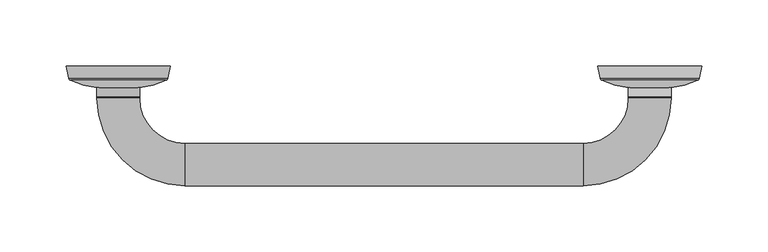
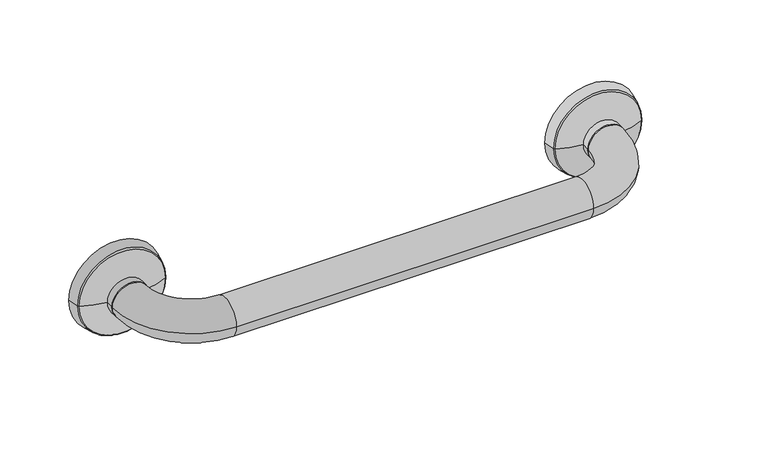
"""IFC4 building model written with IfcOpenShell, lengths in millimetres: proxy geometry, Grab Rail_Metlam_Straight_Horizontal : 432long x 90d x 32h (ML329SS)."""

from ifc_helpers import new_model, si_unit, point, frame, origin, place, context, project, spatial, polyline, circle_curve, ellipse_curve, trimmed, source, transform, mapped, element, save
from ifc_brep_helpers import plane_surface, cylinder_surface, revolved_surface, advanced_brep


def specialty_equipment_db36f565(model_context):
    return source(origin(), model_context, "Body", "AdvancedBrep", [
        advanced_brep(
        [(89.0, -58.0, 784.0), (55.0, -24.0, 784.0), (23.0, -24.0, 784.0), (89.0, -90.0, 784.0), (389.0, -90.0, 784.0), (389.0, -58.0, 784.0), (455.0, -24.0, 784.0), (423.0, -24.0, 784.0), (55.0, -23.0, 784.0), (23.0, -23.0, 784.0), (455.0, -23.0, 784.0), (423.0, -23.0, 784.0), (0.0, 0.0, 784.0), (78.0, 0.0, 784.0), (76.1870729, -9.0646354, 784.0), (1.8129271, -9.0646354, 784.0), (2.8615925, -10.4521085, 784.0), (75.1384075, -10.4521085, 784.0), (55.0, -16.0065539, 784.0), (23.0, -16.0065539, 784.0), (39.0, 0.0, 784.0), (478.0, 0.0, 784.0), (400.0, 0.0, 784.0), (439.0, 0.0, 784.0), (476.1870729, -9.0646354, 784.0), (401.8129271, -9.0646354, 784.0), (455.0, -16.0065539, 784.0), (423.0, -16.0065539, 784.0), (402.8615925, -10.4521085, 784.0), (475.1384075, -10.4521085, 784.0)],
        [
            (0, 1, circle_curve(frame((89.0, -24.0, 784.0), z_axis=(0.0, 0.0, -1.0), x_axis=(-1.0, 0.0, 0.0)), 34.0)),
            (1, 2, circle_curve(frame((39.0, -24.0, 784.0), z_axis=(0.0, -1.0, 0.0), x_axis=(1.0, 0.0, 0.0)), 16.0)),
            (2, 3, circle_curve(frame((89.0, -24.0, 784.0), z_axis=(0.0, 0.0, 1.0), x_axis=(-1.0, 0.0, 0.0)), 66.0)),
            (3, 0, circle_curve(frame((89.0, -74.0, 784.0), z_axis=(-1.0, 1.825290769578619e-12, 0.0), x_axis=(1.825290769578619e-12, 1.0, 0.0)), 16.0)),
            (0, 3, circle_curve(frame((89.0, -74.0, 784.0), z_axis=(-1.0, 3.5350342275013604e-12, 0.0), x_axis=(3.5350342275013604e-12, 1.0, 0.0)), 16.0)),
            (2, 1, circle_curve(frame((39.0, -24.0, 784.0), z_axis=(0.0, -1.0, 0.0), x_axis=(1.0, 0.0, 0.0)), 16.0)),
            (3, 4),
            (4, 5, circle_curve(frame((389.0, -74.0, 784.0), z_axis=(-1.0, 0.0, 0.0), x_axis=(0.0, 1.0, 0.0)), 16.0)),
            (5, 0),
            (5, 4, circle_curve(frame((389.0, -74.0, 784.0), z_axis=(-1.0, 0.0, 0.0), x_axis=(0.0, 1.0, 0.0)), 16.0)),
            (4, 6, circle_curve(frame((389.0, -24.0, 784.0), z_axis=(0.0, 0.0, 1.0), x_axis=(0.0, -1.0, 0.0)), 66.0)),
            (6, 7, circle_curve(frame((439.0, -24.0, 784.0), z_axis=(0.0, -1.0, 0.0), x_axis=(-1.0, 0.0, 0.0)), 16.0)),
            (7, 5, circle_curve(frame((389.0, -24.0, 784.0), z_axis=(0.0, 0.0, -1.0), x_axis=(0.0, -1.0, 0.0)), 34.0)),
            (7, 6, circle_curve(frame((439.0, -24.0, 784.0), z_axis=(0.0, -1.0, 0.0), x_axis=(-1.0, 0.0, 0.0)), 16.0)),
            (1, 8),
            (8, 9, circle_curve(frame((39.0, -23.0, 784.0), z_axis=(0.0, -1.0, 0.0), x_axis=(1.0, 0.0, 0.0)), 16.0)),
            (9, 2),
            (9, 8, circle_curve(frame((39.0, -23.0, 784.0), z_axis=(0.0, -1.0, 0.0), x_axis=(1.0, 0.0, 0.0)), 16.0)),
            (6, 10),
            (10, 11, circle_curve(frame((439.0, -23.0, 784.0), z_axis=(0.0, -1.0, 0.0), x_axis=(-1.0, 0.0, 0.0)), 16.0)),
            (11, 7),
            (11, 10, circle_curve(frame((439.0, -23.0, 784.0), z_axis=(0.0, -1.0, 0.0), x_axis=(-1.0, 0.0, 0.0)), 16.0)),
            (12, 13, circle_curve(frame((39.0, 0.0, 784.0), z_axis=(0.0, -1.0, 0.0), x_axis=(1.0, 0.0, 0.0)), 39.0)),
            (13, 14),
            (14, 15, circle_curve(frame((39.0, -9.0646354, 784.0), z_axis=(0.0, 1.0, 0.0), x_axis=(1.0, 0.0, 0.0)), 37.1870729)),
            (15, 12),
            (13, 12, circle_curve(frame((39.0, 0.0, 784.0), z_axis=(0.0, -1.0, 0.0), x_axis=(1.0, 0.0, 0.0)), 39.0)),
            (15, 14, circle_curve(frame((39.0, -9.0646354, 784.0), z_axis=(0.0, 1.0, 0.0), x_axis=(1.0, 0.0, 0.0)), 37.1870729)),
            (16, 17, circle_curve(frame((39.0, -10.4521085, 784.0), z_axis=(0.0, -1.0, 0.0), x_axis=(1.0, 0.0, 0.0)), 36.1384075)),
            (17, 18, circle_curve(frame((51.6887092, 35.2834961, 784.0), z_axis=(0.0, 0.0, -1.0), x_axis=(-1.0, 0.0, 0.0)), 51.3968275)),
            (18, 19, circle_curve(frame((39.0, -16.0065539, 784.0), z_axis=(0.0, 1.0, 0.0), x_axis=(1.0, 0.0, 0.0)), 16.0)),
            (19, 16, circle_curve(frame((26.3112908, 35.2834961, 784.0), z_axis=(0.0, 0.0, -1.0), x_axis=(1.0, 0.0, 0.0)), 51.3968275)),
            (17, 16, circle_curve(frame((39.0, -10.4521085, 784.0), z_axis=(0.0, -1.0, 0.0), x_axis=(1.0, 0.0, 0.0)), 36.1384075)),
            (19, 18, circle_curve(frame((39.0, -16.0065539, 784.0), z_axis=(0.0, 1.0, 0.0), x_axis=(1.0, 0.0, 0.0)), 16.0)),
            (18, 8),
            (9, 19),
            (12, 20),
            (20, 13),
            (14, 17, circle_curve(frame((74.2259116, -8.6724031, 784.0), z_axis=(0.0, 0.0, -1.0), x_axis=(-1.0, 0.0, 0.0)), 2.0)),
            (16, 15, circle_curve(frame((3.7740884, -8.6724031, 784.0), z_axis=(0.0, 0.0, -1.0), x_axis=(1.0, 0.0, 0.0)), 2.0)),
            (21, 22, circle_curve(frame((439.0, 0.0, 784.0), z_axis=(0.0, 1.0, 0.0), x_axis=(-1.0, 0.0, 0.0)), 39.0)),
            (22, 23),
            (23, 21),
            (22, 21, circle_curve(frame((439.0, 0.0, 784.0), z_axis=(0.0, 1.0, 0.0), x_axis=(-1.0, 0.0, 0.0)), 39.0)),
            (21, 24),
            (24, 25, circle_curve(frame((439.0, -9.0646354, 784.0), z_axis=(0.0, 1.0, 0.0), x_axis=(-1.0, 0.0, 0.0)), 37.1870729)),
            (25, 22),
            (25, 24, circle_curve(frame((439.0, -9.0646354, 784.0), z_axis=(0.0, 1.0, 0.0), x_axis=(-1.0, 0.0, 0.0)), 37.1870729)),
            (26, 27, circle_curve(frame((439.0, -16.0065539, 784.0), z_axis=(0.0, 1.0, 0.0), x_axis=(-1.0, 0.0, 0.0)), 16.0)),
            (27, 28, circle_curve(frame((426.3112908, 35.2834961, 784.0), z_axis=(0.0, 0.0, -1.0), x_axis=(-1.0, 0.0, 0.0)), 51.3968275)),
            (28, 29, circle_curve(frame((439.0, -10.4521085, 784.0), z_axis=(0.0, -1.0, 0.0), x_axis=(-1.0, 0.0, 0.0)), 36.1384075)),
            (29, 26, circle_curve(frame((451.6887092, 35.2834961, 784.0), z_axis=(0.0, 0.0, -1.0), x_axis=(1.0, 0.0, 0.0)), 51.3968275)),
            (27, 26, circle_curve(frame((439.0, -16.0065539, 784.0), z_axis=(0.0, 1.0, 0.0), x_axis=(-1.0, 0.0, 0.0)), 16.0)),
            (29, 28, circle_curve(frame((439.0, -10.4521085, 784.0), z_axis=(0.0, -1.0, 0.0), x_axis=(-1.0, 0.0, 0.0)), 36.1384075)),
            (26, 10),
            (11, 27),
            (24, 29, circle_curve(frame((474.2259116, -8.6724031, 784.0), z_axis=(0.0, 0.0, -1.0), x_axis=(1.0, 0.0, 0.0)), 2.0)),
            (28, 25, circle_curve(frame((403.7740884, -8.6724031, 784.0), z_axis=(0.0, 0.0, -1.0), x_axis=(-1.0, 0.0, 0.0)), 2.0)),
        ],
        [
            revolved_surface(trimmed(ellipse_curve(frame((39.0, -24.0, 784.0), z_axis=(0.0, 1.0, 0.0), x_axis=(1.0, 0.0, 0.0)), 16.0, 16.0), [point((23.0, -24.0, 784.0))], [point((55.0, -24.0, 784.0))], True, "CARTESIAN"), (89.0, -24.0, 784.0), (0.0, 0.0, 1.0)),
            revolved_surface(trimmed(ellipse_curve(frame((39.0, -24.0, 784.0), z_axis=(0.0, 1.0, 0.0), x_axis=(1.0, 0.0, 0.0)), 16.0, 16.0), [point((55.0, -24.0, 784.0))], [point((23.0, -24.0, 784.0))], True, "CARTESIAN"), (89.0, -24.0, 784.0), (0.0, 0.0, 1.0)),
            cylinder_surface(frame((89.0, -74.0, 784.0), z_axis=(-1.0, 0.0, 0.0), x_axis=(0.0, 1.0, 0.0)), 16.0),
            revolved_surface(trimmed(ellipse_curve(frame((389.0, -74.0, 784.0), z_axis=(-1.0, 0.0, 0.0), x_axis=(0.0, 1.0, 0.0)), 16.0, 16.0), [point((389.0, -90.0, 784.0))], [point((389.0, -58.0, 784.0))], True, "CARTESIAN"), (389.0, -24.0, 784.0), (0.0, 0.0, 1.0)),
            revolved_surface(trimmed(ellipse_curve(frame((389.0, -74.0, 784.0), z_axis=(-1.0, 0.0, 0.0), x_axis=(0.0, 1.0, 0.0)), 16.0, 16.0), [point((389.0, -58.0, 784.0))], [point((389.0, -90.0, 784.0))], True, "CARTESIAN"), (389.0, -24.0, 784.0), (0.0, 0.0, 1.0)),
            cylinder_surface(frame((39.0, -23.0, 784.0), z_axis=(0.0, 1.0, 0.0), x_axis=(1.0, 0.0, 0.0)), 16.0),
            cylinder_surface(frame((439.0, -24.0, 784.0), z_axis=(0.0, -1.0, 0.0), x_axis=(-1.0, 0.0, 0.0)), 16.0),
            revolved_surface(polyline([(76.1870729, -9.0646354, 784.0), (78.0, 0.0, 784.0)]), (39.0, -10.0, 784.0), (0.0, 1.0, 0.0)),
            revolved_surface(trimmed(ellipse_curve(frame((51.6887092, 35.2834961, 784.0), z_axis=(0.0, 0.0, 1.0), x_axis=(-1.0, 0.0, 0.0)), 51.3968275, 51.3968275), [point((55.0, -16.0065539, 784.0))], [point((75.1384075, -10.4521085, 784.0))], True, "CARTESIAN"), (39.0, -10.0, 784.0), (0.0, 1.0, 0.0)),
            cylinder_surface(frame((39.0, -10.0, 784.0), z_axis=(0.0, 1.0, 0.0), x_axis=(1.0, 0.0, 0.0)), 16.0),
            plane_surface(frame((39.0, 0.0, 784.0), z_axis=(0.0, 1.0, 0.0), x_axis=(1.0, 0.0, 0.0))),
            revolved_surface(trimmed(ellipse_curve(frame((74.2259116, -8.6724031, 784.0), z_axis=(0.0, 0.0, 1.0), x_axis=(-1.0, 0.0, 0.0)), 2.0, 2.0), [point((75.1384075, -10.4521085, 784.0))], [point((76.1870729, -9.0646354, 784.0))], True, "CARTESIAN"), (39.0, -10.0, 784.0), (0.0, 1.0, 0.0)),
            plane_surface(frame((439.0, 0.0, 784.0), z_axis=(0.0, 1.0, 0.0), x_axis=(-1.0, 0.0, 0.0))),
            revolved_surface(polyline([(400.0, 0.0, 784.0), (401.8129271, -9.0646354, 784.0)]), (439.0, -10.0, 784.0), (0.0, -1.0, 0.0)),
            revolved_surface(trimmed(ellipse_curve(frame((426.3112908, 35.2834961, 784.0), z_axis=(0.0, 0.0, 1.0), x_axis=(-1.0, 0.0, 0.0)), 51.3968275, 51.3968275), [point((402.8615925, -10.4521085, 784.0))], [point((423.0, -16.0065539, 784.0))], True, "CARTESIAN"), (439.0, -10.0, 784.0), (0.0, -1.0, 0.0)),
            cylinder_surface(frame((439.0, -10.0, 784.0), z_axis=(0.0, -1.0, 0.0), x_axis=(-1.0, 0.0, 0.0)), 16.0),
            revolved_surface(trimmed(ellipse_curve(frame((403.7740884, -8.6724031, 784.0), z_axis=(0.0, 0.0, 1.0), x_axis=(-1.0, 0.0, 0.0)), 2.0, 2.0), [point((401.8129271, -9.0646354, 784.0))], [point((402.8615925, -10.4521085, 784.0))], True, "CARTESIAN"), (439.0, -10.0, 784.0), (0.0, -1.0, 0.0)),
        ],
        [
            (0, [[1, 2, 3, 4]]),
            (1, [[-1, 5, -3, 6]]),
            (2, [[-4, 7, 8, 9]]),
            (2, [[-5, -9, 10, -7]]),
            (3, [[-8, 11, 12, 13]]),
            (4, [[-10, -13, 14, -11]]),
            (5, [[-2, 15, 16, 17]]),
            (5, [[-6, -17, 18, -15]]),
            (6, [[-12, 19, 20, 21]]),
            (6, [[-14, -21, 22, -19]]),
            (7, [[23, 24, 25, 26]]),
            (7, [[-24, 27, -26, 28]]),
            (8, [[29, 30, 31, 32]]),
            (8, [[-30, 33, -32, 34]]),
            (9, [[-31, 35, -18, 36]]),
            (9, [[-34, -36, -16, -35]]),
            (10, [[-23, 37, 38]]),
            (10, [[-27, -38, -37]]),
            (11, [[-25, 39, -29, 40]]),
            (11, [[-28, -40, -33, -39]]),
            (12, [[41, 42, 43]]),
            (12, [[-42, 44, -43]]),
            (13, [[-41, 45, 46, 47]]),
            (13, [[-44, -47, 48, -45]]),
            (14, [[49, 50, 51, 52]]),
            (14, [[-50, 53, -52, 54]]),
            (15, [[-49, 55, -22, 56]]),
            (15, [[-53, -56, -20, -55]]),
            (16, [[-46, 57, -51, 58]]),
            (16, [[-48, -58, -54, -57]]),
        ],
    ),
    ])


if __name__ == "__main__":
    model = new_model("IFC4")
    model_context = context("Model", 3, world=origin())
    ifc_project = project(units=[si_unit("LENGTHUNIT", "METRE", prefix="MILLI")], contexts=[model_context])
    site = spatial("IfcSite", under=ifc_project)
    building = spatial("IfcBuilding", under=site)
    placement = place(None, origin())
    specialty_equipment_shape = specialty_equipment_db36f565(model_context)
    element("IfcBuildingElementProxy", 1, Name="Grab Rail_Metlam_Straight_Horizontal : 432long x 90d x 32h (ML329SS)", ObjectType="Grab Rail_Metlam_Straight_Horizontal : 432long x 90d x 32h (ML329SS)", at=placement, inside=building, context=model_context, shape_type="MappedRepresentation", body=[
        mapped(specialty_equipment_shape, transform((0.0, 0.0, 0.0), x_axis=(1.0, 0.0, 0.0), y_axis=(0.0, 1.0, 0.0), z_axis=(0.0, 0.0, 1.0))),
    ])
    save(model, "model.ifc")
